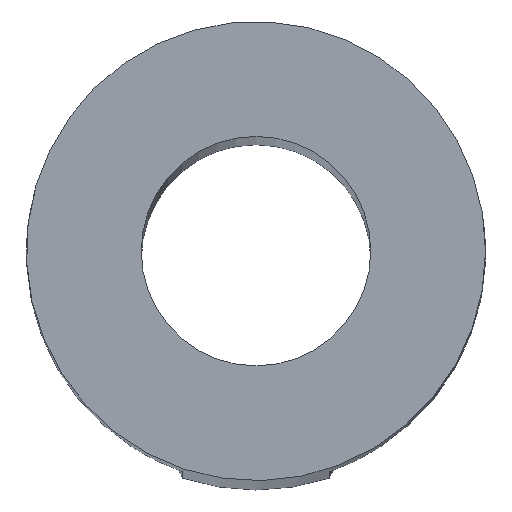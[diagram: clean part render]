
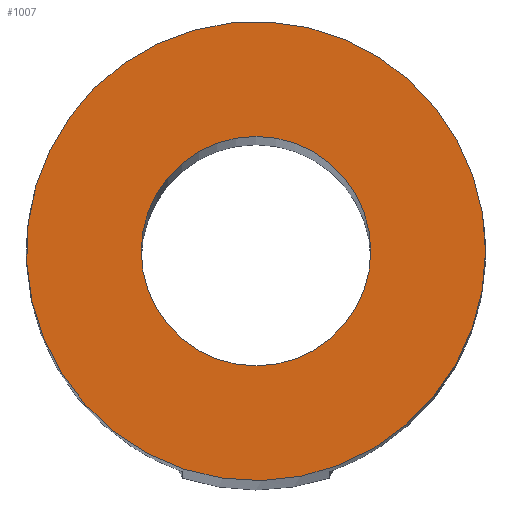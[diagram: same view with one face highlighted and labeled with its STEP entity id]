
A CAD part, top view. The second image highlights one B-rep face of the part: STEP entity #1007.
In plain terms, the highlighted planar face has unit normal (0, 0, 1).
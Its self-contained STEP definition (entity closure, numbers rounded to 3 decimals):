
#840=CARTESIAN_POINT('',(2.,0.,47.0));
#841=VERTEX_POINT('',#840);
#842=CARTESIAN_POINT('',(0.0,0.0,47.0));
#843=DIRECTION('',(0.0,0.0,-1.0));
#844=DIRECTION('',(-1.0,0.0,0.0));
#845=AXIS2_PLACEMENT_3D('',#842,#843,#844);
#846=CIRCLE('',#845,2.);
#847=EDGE_CURVE('',#841,#841,#846,.T.);
#984=CARTESIAN_POINT('',(1.0,0.,47.0));
#985=VERTEX_POINT('',#984);
#986=CARTESIAN_POINT('',(0.0,0.0,47.0));
#987=DIRECTION('',(0.0,0.0,-1.0));
#988=DIRECTION('',(-1.0,0.0,0.0));
#989=AXIS2_PLACEMENT_3D('',#986,#987,#988);
#990=CIRCLE('',#989,1.0);
#991=EDGE_CURVE('',#985,#985,#990,.T.);
#996=CARTESIAN_POINT('',(0.0,0.0,47.0));
#997=DIRECTION('',(0.0,0.0,-1.0));
#998=DIRECTION('',(-1.0,0.0,0.0));
#999=AXIS2_PLACEMENT_3D('',#996,#997,#998);
#1000=PLANE('',#999);
#1001=ORIENTED_EDGE('',*,*,#847,.F.);
#1002=EDGE_LOOP('',(#1001));
#1003=FACE_OUTER_BOUND('',#1002,.T.);
#1004=ORIENTED_EDGE('',*,*,#991,.T.);
#1005=EDGE_LOOP('',(#1004));
#1006=FACE_BOUND('',#1005,.T.);
#1007=ADVANCED_FACE('',(#1003,#1006),#1000,.F.);
